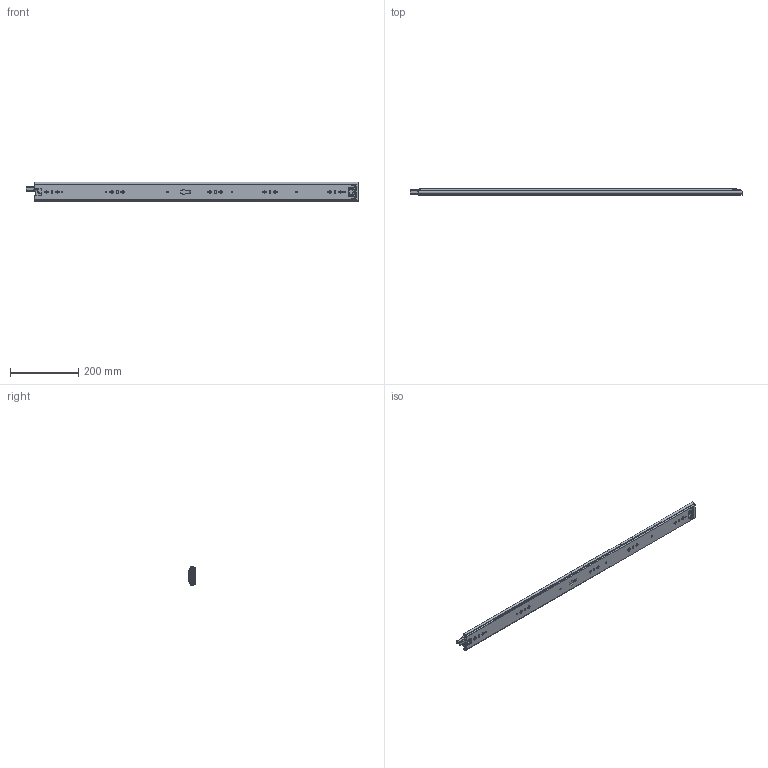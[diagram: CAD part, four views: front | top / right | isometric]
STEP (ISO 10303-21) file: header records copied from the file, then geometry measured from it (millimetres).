
FILE_DESCRIPTION((''),'2;1');
FILE_NAME('KP-57-01ZUZHUANGTU-38YOU_ASM','2023-04-03T',('jishu015'),(''),'PRO/ENGINEER BY PARAMETRIC TECHNOLOGY CORPORATION, 2010280','PRO/ENGINEER BY PARAMETRIC TECHNOLOGY CORPORATION, 2010280','');
FILE_SCHEMA(('CONFIG_CONTROL_DESIGN'));
Products named in the file (21): KP-57-01WEIKE-18________; 1057WEIJIAO________; WAIKE_______ASM; KP-57-01ZHONGGUI-18________; ZHONGGUIPEIJIAN-11______; ZHONGGUISUOKOU-11______; KP-57-01ZHONGGUI-18_________ASM; 1057XIAOZHUJIA________; 1057-5-6GANZHU________; 1057XIAOZHUJIA-14GE_________ASM; KP-57-01NEIGUI-18________; PJ-57-08______; DIAOPIAN-11______; 50XINSUOKOU-1______; 1053-3SBANJI122____; JIAO11____; KP-57-01NEIGUI-18_________ASM; 1053ZHUTIAO-175____________; 53-5-6GANZHU____________; 1053ZHUTIAO-175MM_______ASM; KP-57-01ZUZHUANGTU-38YOU_ASM
Assembly tree (104 placements, depth 3):
  KP-57-01ZUZHUANGTU-38YOU_ASM
    WAIKE_______ASM
      KP-57-01WEIKE-18________
      1057WEIJIAO________
    KP-57-01ZHONGGUI-18_________ASM
      KP-57-01ZHONGGUI-18________
      ZHONGGUIPEIJIAN-11______
      ZHONGGUISUOKOU-11______
    1057XIAOZHUJIA-14GE_________ASM
      1057XIAOZHUJIA________
      1057-5-6GANZHU________  x68
    KP-57-01NEIGUI-18_________ASM
      KP-57-01NEIGUI-18________
      PJ-57-08______
      DIAOPIAN-11______
      50XINSUOKOU-1______
      1053-3SBANJI122____
      JIAO11____
    1053ZHUTIAO-175MM_______ASM  x2
      1053ZHUTIAO-175____________
      53-5-6GANZHU____________
Bounding box: 975.44 x 19 x 57.67 mm (x, y, z)
Volume: 416950.8 mm3; surface area: 455127.6 mm2
Topology: 117 solids, 117 shells, 2872 faces, 8334 edges, 5197 vertices
Faces by surface type: cylinder 1253, plane 1151, sphere 215, bspline 127, cone 84, extrusion 23, torus 19
Entity records: 92318 total; most frequent: CARTESIAN_POINT 22602, ORIENTED_EDGE 14776, DIRECTION 14364, EDGE_CURVE 7388, AXIS2_PLACEMENT_3D 4956, VERTEX_POINT 4777, VECTOR 4452, LINE 4429
